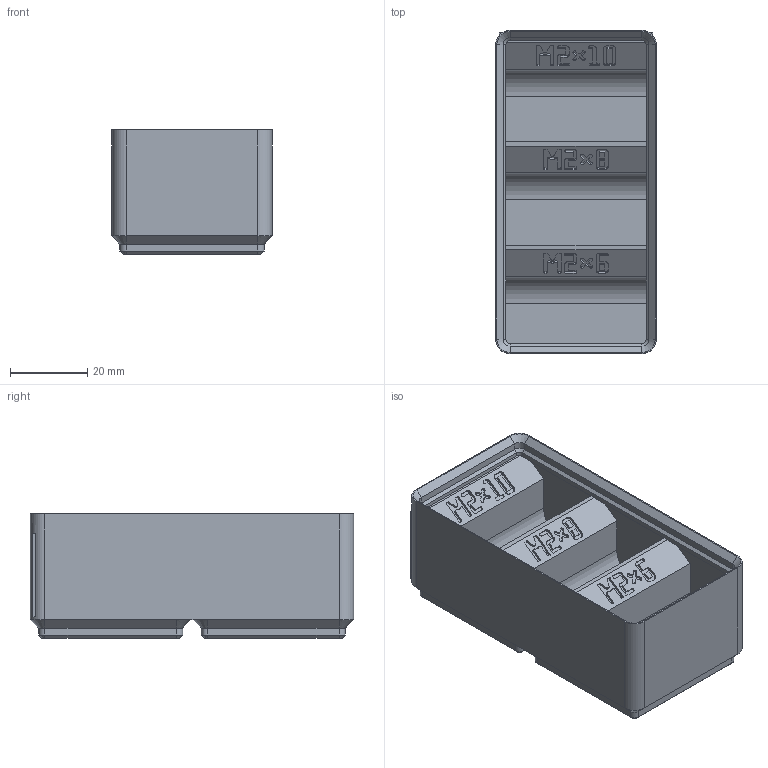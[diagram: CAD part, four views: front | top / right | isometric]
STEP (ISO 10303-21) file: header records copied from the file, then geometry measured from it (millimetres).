
FILE_DESCRIPTION(('Open CASCADE Model'),'2;1');
FILE_NAME('Open CASCADE Shape Model','2026-11-16T17:23:13',('Author'),( 'Open CASCADE'),'Open CASCADE STEP processor 8.0','build123d', 'Unknown');
FILE_SCHEMA(('AUTOMOTIVE_DESIGN { 1 0 10303 214 1 1 1 1 }'));
Products named in the file (1): COMPOUND
Bounding box: 41.5 x 83.5 x 32.1 mm (x, y, z)
Volume: 46099 mm3; surface area: 22431.5 mm2
Topology: 1 solids, 1 shells, 1470 faces, 4276 edges, 2830 vertices
Faces by surface type: plane 1417, cone 28, cylinder 25
Entity records: 102848 total; most frequent: CARTESIAN_POINT 17565, DIRECTION 15524, LINE 12394, VECTOR 12394, ORIENTED_EDGE 8552, PCURVE 8552, DEFINITIONAL_REPRESENTATION 8552, EDGE_CURVE 4276
